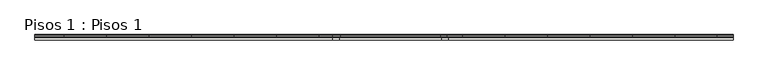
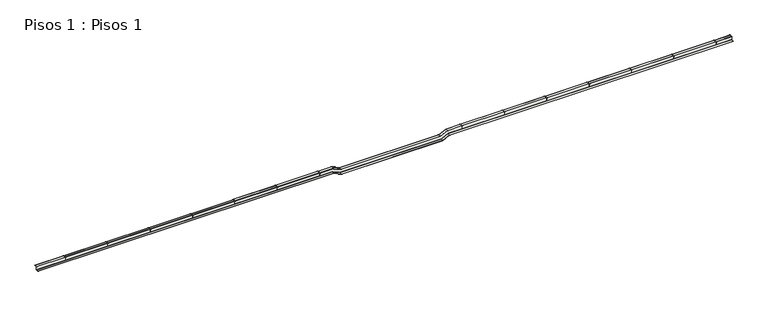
"""IFC4 building model written with IfcOpenShell, lengths in millimetres: slab geometry, Pisos 1 : Pisos 1."""

from ifc_helpers import new_model, si_unit, frame, origin, place, context, project, spatial, polyline, circle_curve, ellipse_curve, source, transform, mapped, element, save
from ifc_brep_helpers import plane_surface, cylinder_surface, revolved_surface, advanced_brep


def pisos_1_pisos_1_989e87d9(model_context):
    return source(origin(), model_context, "Body", "AdvancedBrep", [
        advanced_brep(
        [(-22493.1118355, -12233.9118273, 0.0), (-22493.1118355, -12383.9118273, 0.0), (-22493.1118355, -12383.9118273, -200.0), (-22493.1118355, -12543.9118273, -200.0), (-22493.1118355, -12543.9118273, -198.6117387), (-22493.1118355, -12536.5500886, -191.25), (-22493.1118355, -12405.9455407, -191.25), (-22493.1118355, -12393.9118273, -179.2162866), (-22493.1118355, -12393.9118273, 0.0), (-22493.1118355, -12383.9118273, 10.0), (-22493.1118355, -12243.9118273, 10.0), (-20789.9181967, -12233.9118273, 0.0), (-20789.9181967, -12383.9118273, 0.0), (-4981.1508251, -12233.9118273, 0.0), (-4981.1508251, -12383.9118273, 0.0), (-5779.9181967, -12383.9118273, 0.0), (-5779.9181967, -12233.9118273, 0.0), (-4989.9917071, -12233.9118273, 0.0), (-8279.9181967, -12233.9118273, 0.0), (-5789.9181967, -12233.9118273, 0.0), (-5789.9181967, -12383.9118273, 0.0), (-8279.9181967, -12383.9118273, 0.0), (-10779.9181967, -12233.9118273, 0.0), (-8289.9181967, -12233.9118273, 0.0), (-8289.9181967, -12383.9118273, 0.0), (-10779.9181967, -12383.9118273, 0.0), (-13281.5118355, -12233.9118273, 0.0), (-10789.9181967, -12233.9118273, 0.0), (-10789.9181967, -12383.9118273, 0.0), (-13281.5118355, -12383.9118273, 0.0), (-15779.9181967, -12233.9118273, 0.0), (-13291.5118355, -12233.9118273, 0.0), (-13291.5118355, -12383.9118273, 0.0), (-15779.9181967, -12383.9118273, 0.0), (-18279.9181967, -12233.9118273, 0.0), (-15789.9181967, -12233.9118273, 0.0), (-15789.9181967, -12383.9118273, 0.0), (-18279.9181967, -12383.9118273, 0.0), (-20779.9181967, -12233.9118273, 0.0), (-18289.9181967, -12233.9118273, 0.0), (-18289.9181967, -12383.9118273, 0.0), (-20779.9181967, -12383.9118273, 0.0), (-20789.9181967, -12383.9118273, -180.0), (-20779.9181967, -12383.9118273, -180.0), (-18289.9181967, -12383.9118273, -180.0), (-18279.9181967, -12383.9118273, -180.0), (-15789.9181967, -12383.9118273, -180.0), (-15779.9181967, -12383.9118273, -180.0), (-13291.5118355, -12383.9118273, -180.0), (-13281.5118355, -12383.9118273, -180.0), (-10789.9181967, -12383.9118273, -180.0), (-10779.9181967, -12383.9118273, -180.0), (-8289.9181967, -12383.9118273, -180.0), (-8279.9181967, -12383.9118273, -180.0), (-5789.9181967, -12383.9118273, -180.0), (-5779.9181967, -12383.9118273, -180.0), (-4542.9297644, -12383.9118273, -200.0), (1348.4881645, -12383.9118273, -200.0), (1748.4881645, -12383.9118273, 0.0), (2610.8181457, -12383.9118273, 0.0), (2610.8181457, -12383.9118273, -180.0), (2620.8181457, -12383.9118273, -180.0), (2620.8181457, -12383.9118273, 0.0), (5110.8181457, -12383.9118273, 0.0), (5110.8181457, -12383.9118273, -180.0), (5120.8181457, -12383.9118273, -180.0), (5120.8181457, -12383.9118273, 0.0), (7610.8181457, -12383.9118273, 0.0), (7610.8181457, -12383.9118273, -180.0), (7620.8181457, -12383.9118273, -180.0), (7620.8181457, -12383.9118273, 0.0), (10110.8181457, -12383.9118273, 0.0), (10110.8181457, -12383.9118273, -180.0), (10120.8181457, -12383.9118273, -180.0), (10120.8181457, -12383.9118273, 0.0), (12610.8181457, -12383.9118273, 0.0), (12610.8181457, -12383.9118273, -180.0), (12620.8181457, -12383.9118273, -180.0), (12620.8181457, -12383.9118273, 0.0), (15110.8181457, -12383.9118273, 0.0), (15110.8181457, -12383.9118273, -180.0), (15120.8181457, -12383.9118273, -180.0), (15120.8181457, -12383.9118273, 0.0), (17610.8181457, -12383.9118273, 0.0), (17610.8181457, -12383.9118273, -180.0), (17620.8181457, -12383.9118273, -180.0), (17620.8181457, -12383.9118273, 0.0), (18539.0313852, -12383.9118273, 0.0), (18539.0313852, -12383.9118273, -200.0), (1795.70176, -12383.9118273, -200.0), (1395.70176, -12383.9118273, -400.0), (-4586.4116184, -12383.9118273, -400.0), (-5024.6326791, -12383.9118273, -200.0), (-5024.6326791, -12543.9118273, -200.0), (-4586.4116184, -12543.9118273, -400.0), (1395.70176, -12543.9118273, -400.0), (1795.70176, -12543.9118273, -200.0), (18539.0313852, -12543.9118273, -200.0), (18539.0313852, -12543.9118273, -198.6117387), (1795.374036, -12543.9118273, -198.6117387), (1395.374036, -12543.9118273, -398.6117387), (-4586.1097975, -12543.9118273, -398.6117387), (-5024.3308583, -12543.9118273, -198.6117387), (-5022.730348, -12536.5500886, -191.25), (-5022.730348, -12405.9455407, -191.25), (-5020.1141072, -12393.9118273, -179.2162866), (-5779.9181967, -12393.9118273, -179.2162866), (-5779.9181967, -12393.9373747, -180.0), (-5789.9181967, -12393.9373747, -180.0), (-5789.9181967, -12393.9118273, -179.2162866), (-8279.9181967, -12393.9118273, -179.2162866), (-8279.9181967, -12393.9373747, -180.0), (-8289.9181967, -12393.9373747, -180.0), (-8289.9181967, -12393.9118273, -179.2162866), (-10779.9181967, -12393.9118273, -179.2162866), (-10779.9181967, -12393.9373747, -180.0), (-10789.9181967, -12393.9373747, -180.0), (-10789.9181967, -12393.9118273, -179.2162866), (-13281.5118355, -12393.9118273, -179.2162866), (-13281.5118355, -12393.9373747, -180.0), (-13291.5118355, -12393.9373747, -180.0), (-13291.5118355, -12393.9118273, -179.2162866), (-15779.9181967, -12393.9118273, -179.2162866), (-15779.9181967, -12393.9373747, -180.0), (-15789.9181967, -12393.9373747, -180.0), (-15789.9181967, -12393.9118273, -179.2162866), (-18279.9181967, -12393.9118273, -179.2162866), (-18279.9181967, -12393.9373747, -180.0), (-18289.9181967, -12393.9373747, -180.0), (-18289.9181967, -12393.9118273, -179.2162866), (-20779.9181967, -12393.9118273, -179.2162866), (-20779.9181967, -12393.9373747, -180.0), (-20789.9181967, -12393.9373747, -180.0), (-20789.9181967, -12393.9118273, -179.2162866), (-20789.9181967, -12393.9118273, 0.0), (-4581.8930465, -12393.9118273, -379.2162866), (1390.7953908, -12393.9118273, -379.2162866), (1790.7953908, -12393.9118273, -179.2162866), (2610.8181457, -12393.9118273, -179.2162866), (2610.8181457, -12393.9118273, 0.0), (1748.4881645, -12393.9118273, 0.0), (1348.4881645, -12393.9118273, -200.0), (-4542.9297644, -12393.9118273, -200.0), (-4981.1508251, -12393.9118273, 0.0), (-5779.9181967, -12393.9118273, 0.0), (18539.0313852, -12393.9118273, -179.2162866), (18539.0313852, -12393.9118273, 0.0), (17620.8181457, -12393.9118273, 0.0), (17620.8181457, -12393.9118273, -179.2162866), (-5789.9181967, -12393.9118273, 0.0), (-8279.9181967, -12393.9118273, 0.0), (-8289.9181967, -12393.9118273, 0.0), (-10779.9181967, -12393.9118273, 0.0), (-10789.9181967, -12393.9118273, 0.0), (-13281.5118355, -12393.9118273, 0.0), (-13291.5118355, -12393.9118273, 0.0), (-15779.9181967, -12393.9118273, 0.0), (-15789.9181967, -12393.9118273, 0.0), (-18279.9181967, -12393.9118273, 0.0), (-18289.9181967, -12393.9118273, 0.0), (-20779.9181967, -12393.9118273, 0.0), (2620.8181457, -12393.9118273, -179.2162866), (5110.8181457, -12393.9118273, -179.2162866), (5110.8181457, -12393.9118273, 0.0), (2620.8181457, -12393.9118273, 0.0), (5120.8181457, -12393.9118273, -179.2162866), (7610.8181457, -12393.9118273, -179.2162866), (7610.8181457, -12393.9118273, 0.0), (5120.8181457, -12393.9118273, 0.0), (7620.8181457, -12393.9118273, -179.2162866), (10110.8181457, -12393.9118273, -179.2162866), (10110.8181457, -12393.9118273, 0.0), (7620.8181457, -12393.9118273, 0.0), (10120.8181457, -12393.9118273, -179.2162866), (12610.8181457, -12393.9118273, -179.2162866), (12610.8181457, -12393.9118273, 0.0), (10120.8181457, -12393.9118273, 0.0), (12620.8181457, -12393.9118273, -179.2162866), (15110.8181457, -12393.9118273, -179.2162866), (15110.8181457, -12393.9118273, 0.0), (12620.8181457, -12393.9118273, 0.0), (15120.8181457, -12393.9118273, -179.2162866), (17610.8181457, -12393.9118273, -179.2162866), (17610.8181457, -12393.9118273, 0.0), (15120.8181457, -12393.9118273, 0.0), (-20789.9181967, -12383.9118273, 10.0), (-4978.9767324, -12383.9118273, 10.0), (-5779.9181967, -12383.9118273, 10.0), (-5789.9181967, -12383.9118273, 10.0), (-8279.9181967, -12383.9118273, 10.0), (-8289.9181967, -12383.9118273, 10.0), (-10779.9181967, -12383.9118273, 10.0), (-10789.9181967, -12383.9118273, 10.0), (-13281.5118355, -12383.9118273, 10.0), (-13291.5118355, -12383.9118273, 10.0), (-15779.9181967, -12383.9118273, 10.0), (-15789.9181967, -12383.9118273, 10.0), (-18279.9181967, -12383.9118273, 10.0), (-18289.9181967, -12383.9118273, 10.0), (-20779.9181967, -12383.9118273, 10.0), (-20789.9181967, -12243.9118273, 10.0), (-4978.9767324, -12243.9118273, 10.0), (-5779.9181967, -12243.9118273, 10.0), (-5789.9181967, -12243.9118273, 10.0), (-8279.9181967, -12243.9118273, 10.0), (-8289.9181967, -12243.9118273, 10.0), (-10779.9181967, -12243.9118273, 10.0), (-10789.9181967, -12243.9118273, 10.0), (-13281.5118355, -12243.9118273, 10.0), (-13291.5118355, -12243.9118273, 10.0), (-15779.9181967, -12243.9118273, 10.0), (-15789.9181967, -12243.9118273, 10.0), (-18279.9181967, -12243.9118273, 10.0), (-18289.9181967, -12243.9118273, 10.0), (-20779.9181967, -12243.9118273, 10.0), (-4979.5347895, -12233.9118273, -0.7375436), (-4542.9297644, -12233.9118273, -200.0), (-4584.5092873, -12536.5500886, -391.25), (-4584.5092873, -12405.9455407, -391.25), (-4540.7556717, -12383.9118273, -190.0), (-4540.7556717, -12243.9118273, -190.0), (1348.4881645, -12233.9118273, -200.0), (1393.6361652, -12536.5500886, -391.25), (1393.6361652, -12405.9455407, -391.25), (1346.1274847, -12383.9118273, -190.0), (1346.1274847, -12243.9118273, -190.0), (1748.4881645, -12233.9118273, 0.0), (1793.6361652, -12536.5500886, -191.25), (1793.6361652, -12405.9455407, -191.25), (1746.1274847, -12383.9118273, 10.0), (1746.1274847, -12243.9118273, 10.0), (18539.0313852, -12233.9118273, 0.0), (18539.0313852, -12243.9118273, 10.0), (18539.0313852, -12383.9118273, 10.0), (18539.0313852, -12405.9455407, -191.25), (18539.0313852, -12536.5500886, -191.25), (2610.8181457, -12233.9118273, 0.0), (17620.8181457, -12233.9118273, 0.0), (2620.8181457, -12233.9118273, 0.0), (5110.8181457, -12233.9118273, 0.0), (5120.8181457, -12233.9118273, 0.0), (7610.8181457, -12233.9118273, 0.0), (7620.8181457, -12233.9118273, 0.0), (10110.8181457, -12233.9118273, 0.0), (10120.8181457, -12233.9118273, 0.0), (12610.8181457, -12233.9118273, 0.0), (12620.8181457, -12233.9118273, 0.0), (15110.8181457, -12233.9118273, 0.0), (15120.8181457, -12233.9118273, 0.0), (17610.8181457, -12233.9118273, 0.0), (17620.8181457, -12393.9373747, -180.0), (17610.8181457, -12393.9373747, -180.0), (15120.8181457, -12393.9373747, -180.0), (15110.8181457, -12393.9373747, -180.0), (12620.8181457, -12393.9373747, -180.0), (12610.8181457, -12393.9373747, -180.0), (10120.8181457, -12393.9373747, -180.0), (10110.8181457, -12393.9373747, -180.0), (7620.8181457, -12393.9373747, -180.0), (7610.8181457, -12393.9373747, -180.0), (5120.8181457, -12393.9373747, -180.0), (5110.8181457, -12393.9373747, -180.0), (2620.8181457, -12393.9373747, -180.0), (2610.8181457, -12393.9373747, -180.0), (2610.8181457, -12383.9118273, 10.0), (17620.8181457, -12383.9118273, 10.0), (5110.8181457, -12383.9118273, 10.0), (2620.8181457, -12383.9118273, 10.0), (7610.8181457, -12383.9118273, 10.0), (5120.8181457, -12383.9118273, 10.0), (10110.8181457, -12383.9118273, 10.0), (7620.8181457, -12383.9118273, 10.0), (12610.8181457, -12383.9118273, 10.0), (10120.8181457, -12383.9118273, 10.0), (15110.8181457, -12383.9118273, 10.0), (12620.8181457, -12383.9118273, 10.0), (17610.8181457, -12383.9118273, 10.0), (15120.8181457, -12383.9118273, 10.0), (2610.8181457, -12243.9118273, 10.0), (17620.8181457, -12243.9118273, 10.0), (5110.8181457, -12243.9118273, 10.0), (2620.8181457, -12243.9118273, 10.0), (7610.8181457, -12243.9118273, 10.0), (5120.8181457, -12243.9118273, 10.0), (10110.8181457, -12243.9118273, 10.0), (7620.8181457, -12243.9118273, 10.0), (12610.8181457, -12243.9118273, 10.0), (10120.8181457, -12243.9118273, 10.0), (15110.8181457, -12243.9118273, 10.0), (12620.8181457, -12243.9118273, 10.0), (17610.8181457, -12243.9118273, 10.0), (15120.8181457, -12243.9118273, 10.0)],
        [
            (0, 1),
            (1, 2),
            (2, 3),
            (3, 4),
            (4, 5, circle_curve(frame((-22493.1118355, -12536.5500886, -198.6117387), z_axis=(-1.0, 0.0, 0.0), x_axis=(0.0, 1.0, 0.0)), 7.3617387)),
            (5, 6),
            (6, 7, circle_curve(frame((-22493.1118355, -12405.9455407, -179.2162866), z_axis=(1.0, 0.0, 0.0), x_axis=(0.0, 1.0, 0.0)), 12.0337134)),
            (7, 8),
            (8, 9, circle_curve(frame((-22493.1118355, -12383.9118273, 0.0), z_axis=(-1.0, 0.0, 0.0), x_axis=(0.0, 1.0, 0.0)), 10.0)),
            (9, 10),
            (10, 0, circle_curve(frame((-22493.1118355, -12243.9118273, 0.0), z_axis=(-1.0, 0.0, 0.0), x_axis=(0.0, 1.0, 0.0)), 10.0)),
            (0, 11),
            (11, 12),
            (12, 1),
            (13, 14),
            (14, 15),
            (15, 16),
            (16, 17),
            (17, 13),
            (18, 19),
            (19, 20),
            (20, 21),
            (21, 18),
            (22, 23),
            (23, 24),
            (24, 25),
            (25, 22),
            (26, 27),
            (27, 28),
            (28, 29),
            (29, 26),
            (30, 31),
            (31, 32),
            (32, 33),
            (33, 30),
            (34, 35),
            (35, 36),
            (36, 37),
            (37, 34),
            (38, 39),
            (39, 40),
            (40, 41),
            (41, 38),
            (12, 42),
            (42, 43),
            (43, 41),
            (40, 44),
            (44, 45),
            (45, 37),
            (36, 46),
            (46, 47),
            (47, 33),
            (32, 48),
            (48, 49),
            (49, 29),
            (28, 50),
            (50, 51),
            (51, 25),
            (24, 52),
            (52, 53),
            (53, 21),
            (20, 54),
            (54, 55),
            (55, 15),
            (14, 56),
            (56, 57),
            (57, 58),
            (58, 59),
            (59, 60),
            (60, 61),
            (61, 62),
            (62, 63),
            (63, 64),
            (64, 65),
            (65, 66),
            (66, 67),
            (67, 68),
            (68, 69),
            (69, 70),
            (70, 71),
            (71, 72),
            (72, 73),
            (73, 74),
            (74, 75),
            (75, 76),
            (76, 77),
            (77, 78),
            (78, 79),
            (79, 80),
            (80, 81),
            (81, 82),
            (82, 83),
            (83, 84),
            (84, 85),
            (85, 86),
            (86, 87),
            (87, 88),
            (88, 89),
            (89, 90),
            (90, 91),
            (91, 92),
            (92, 2),
            (92, 93),
            (93, 3),
            (93, 94),
            (94, 95),
            (95, 96),
            (96, 97),
            (97, 98),
            (98, 99),
            (99, 100),
            (100, 101),
            (101, 102),
            (102, 4),
            (102, 103, ellipse_curve(frame((-5024.3308583, -12536.5500886, -198.6117387), z_axis=(-0.9771727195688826, 0.0, 0.2124464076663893), x_axis=(-0.2124464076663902, 0.0, -0.9771727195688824)), 7.5337129, 7.3617387)),
            (103, 5),
            (103, 104),
            (104, 6),
            (104, 105, ellipse_curve(frame((-5020.1141072, -12405.9455407, -179.2162866), z_axis=(0.9771727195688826, 0.0, -0.2124464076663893), x_axis=(0.2124464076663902, 0.0, 0.9771727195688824)), 12.3148274, 12.0337134)),
            (105, 106),
            (106, 107, circle_curve(frame((-5779.9181967, -12405.9455407, -179.2162866), z_axis=(-1.0, 0.0, 0.0), x_axis=(0.0, 1.0, 0.0)), 12.0337134)),
            (107, 108),
            (108, 109, circle_curve(frame((-5789.9181967, -12405.9455407, -179.2162866), z_axis=(1.0, 0.0, 0.0), x_axis=(0.0, 1.0, 0.0)), 12.0337134)),
            (109, 110),
            (110, 111, circle_curve(frame((-8279.9181967, -12405.9455407, -179.2162866), z_axis=(-1.0, 0.0, 0.0), x_axis=(0.0, 1.0, 0.0)), 12.0337134)),
            (111, 112),
            (112, 113, circle_curve(frame((-8289.9181967, -12405.9455407, -179.2162866), z_axis=(1.0, 0.0, 0.0), x_axis=(0.0, 1.0, 0.0)), 12.0337134)),
            (113, 114),
            (114, 115, circle_curve(frame((-10779.9181967, -12405.9455407, -179.2162866), z_axis=(-1.0, 0.0, 0.0), x_axis=(0.0, 1.0, 0.0)), 12.0337134)),
            (115, 116),
            (116, 117, circle_curve(frame((-10789.9181967, -12405.9455407, -179.2162866), z_axis=(1.0, 0.0, 0.0), x_axis=(0.0, 1.0, 0.0)), 12.0337134)),
            (117, 118),
            (118, 119, circle_curve(frame((-13281.5118355, -12405.9455407, -179.2162866), z_axis=(-1.0, 0.0, 0.0), x_axis=(0.0, 1.0, 0.0)), 12.0337134)),
            (119, 120),
            (120, 121, circle_curve(frame((-13291.5118355, -12405.9455407, -179.2162866), z_axis=(1.0, 0.0, 0.0), x_axis=(0.0, 1.0, 0.0)), 12.0337134)),
            (121, 122),
            (122, 123, circle_curve(frame((-15779.9181967, -12405.9455407, -179.2162866), z_axis=(-1.0, 0.0, 0.0), x_axis=(0.0, 1.0, 0.0)), 12.0337134)),
            (123, 124),
            (124, 125, circle_curve(frame((-15789.9181967, -12405.9455407, -179.2162866), z_axis=(1.0, 0.0, 0.0), x_axis=(0.0, 1.0, 0.0)), 12.0337134)),
            (125, 126),
            (126, 127, circle_curve(frame((-18279.9181967, -12405.9455407, -179.2162866), z_axis=(-1.0, 0.0, 0.0), x_axis=(0.0, 1.0, 0.0)), 12.0337134)),
            (127, 128),
            (128, 129, circle_curve(frame((-18289.9181967, -12405.9455407, -179.2162866), z_axis=(1.0, 0.0, 0.0), x_axis=(0.0, 1.0, 0.0)), 12.0337134)),
            (129, 130),
            (130, 131, circle_curve(frame((-20779.9181967, -12405.9455407, -179.2162866), z_axis=(-1.0, 0.0, 0.0), x_axis=(0.0, 1.0, 0.0)), 12.0337134)),
            (131, 132),
            (132, 133, circle_curve(frame((-20789.9181967, -12405.9455407, -179.2162866), z_axis=(1.0, 0.0, 0.0), x_axis=(0.0, 1.0, 0.0)), 12.0337134)),
            (133, 7),
            (133, 134),
            (134, 8),
            (105, 135),
            (135, 136),
            (136, 137),
            (137, 138),
            (138, 139),
            (139, 140),
            (140, 141),
            (141, 142),
            (142, 143),
            (143, 144),
            (144, 106),
            (145, 146),
            (146, 147),
            (147, 148),
            (148, 145),
            (109, 149),
            (149, 150),
            (150, 110),
            (113, 151),
            (151, 152),
            (152, 114),
            (117, 153),
            (153, 154),
            (154, 118),
            (121, 155),
            (155, 156),
            (156, 122),
            (125, 157),
            (157, 158),
            (158, 126),
            (129, 159),
            (159, 160),
            (160, 130),
            (161, 162),
            (162, 163),
            (163, 164),
            (164, 161),
            (165, 166),
            (166, 167),
            (167, 168),
            (168, 165),
            (169, 170),
            (170, 171),
            (171, 172),
            (172, 169),
            (173, 174),
            (174, 175),
            (175, 176),
            (176, 173),
            (177, 178),
            (178, 179),
            (179, 180),
            (180, 177),
            (181, 182),
            (182, 183),
            (183, 184),
            (184, 181),
            (134, 185, circle_curve(frame((-20789.9181967, -12383.9118273, 0.0), z_axis=(-1.0, 0.0, 0.0), x_axis=(0.0, 1.0, 0.0)), 10.0)),
            (185, 9),
            (143, 186, ellipse_curve(frame((-4981.1508251, -12383.9118273, 0.0), z_axis=(-0.9771727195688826, 0.0, 0.2124464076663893), x_axis=(-0.2124464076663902, 0.0, -0.9771727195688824)), 10.2336054, 10.0)),
            (186, 187),
            (187, 144, circle_curve(frame((-5779.9181967, -12383.9118273, 0.0), z_axis=(1.0, 0.0, 0.0), x_axis=(0.0, 1.0, 0.0)), 10.0)),
            (149, 188, circle_curve(frame((-5789.9181967, -12383.9118273, 0.0), z_axis=(-1.0, 0.0, 0.0), x_axis=(0.0, 1.0, 0.0)), 10.0)),
            (188, 189),
            (189, 150, circle_curve(frame((-8279.9181967, -12383.9118273, 0.0), z_axis=(1.0, 0.0, 0.0), x_axis=(0.0, 1.0, 0.0)), 10.0)),
            (151, 190, circle_curve(frame((-8289.9181967, -12383.9118273, 0.0), z_axis=(-1.0, 0.0, 0.0), x_axis=(0.0, 1.0, 0.0)), 10.0)),
            (190, 191),
            (191, 152, circle_curve(frame((-10779.9181967, -12383.9118273, 0.0), z_axis=(1.0, 0.0, 0.0), x_axis=(0.0, 1.0, 0.0)), 10.0)),
            (153, 192, circle_curve(frame((-10789.9181967, -12383.9118273, 0.0), z_axis=(-1.0, 0.0, 0.0), x_axis=(0.0, 1.0, 0.0)), 10.0)),
            (192, 193),
            (193, 154, circle_curve(frame((-13281.5118355, -12383.9118273, 0.0), z_axis=(1.0, 0.0, 0.0), x_axis=(0.0, 1.0, 0.0)), 10.0)),
            (155, 194, circle_curve(frame((-13291.5118355, -12383.9118273, 0.0), z_axis=(-1.0, 0.0, 0.0), x_axis=(0.0, 1.0, 0.0)), 10.0)),
            (194, 195),
            (195, 156, circle_curve(frame((-15779.9181967, -12383.9118273, 0.0), z_axis=(1.0, 0.0, 0.0), x_axis=(0.0, 1.0, 0.0)), 10.0)),
            (157, 196, circle_curve(frame((-15789.9181967, -12383.9118273, 0.0), z_axis=(-1.0, 0.0, 0.0), x_axis=(0.0, 1.0, 0.0)), 10.0)),
            (196, 197),
            (197, 158, circle_curve(frame((-18279.9181967, -12383.9118273, 0.0), z_axis=(1.0, 0.0, 0.0), x_axis=(0.0, 1.0, 0.0)), 10.0)),
            (159, 198, circle_curve(frame((-18289.9181967, -12383.9118273, 0.0), z_axis=(-1.0, 0.0, 0.0), x_axis=(0.0, 1.0, 0.0)), 10.0)),
            (198, 199),
            (199, 160, circle_curve(frame((-20779.9181967, -12383.9118273, 0.0), z_axis=(1.0, 0.0, 0.0), x_axis=(0.0, 1.0, 0.0)), 10.0)),
            (185, 200),
            (200, 10),
            (186, 201),
            (201, 202),
            (202, 187),
            (188, 203),
            (203, 204),
            (204, 189),
            (190, 205),
            (205, 206),
            (206, 191),
            (192, 207),
            (207, 208),
            (208, 193),
            (194, 209),
            (209, 210),
            (210, 195),
            (196, 211),
            (211, 212),
            (212, 197),
            (198, 213),
            (213, 214),
            (214, 199),
            (200, 11, circle_curve(frame((-20789.9181967, -12243.9118273, 0.0), z_axis=(-1.0, 0.0, 0.0), x_axis=(0.0, 1.0, 0.0)), 10.0)),
            (201, 13, ellipse_curve(frame((-4981.1508251, -12243.9118273, 0.0), z_axis=(-0.9771727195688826, 0.0, 0.2124464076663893), x_axis=(-0.2124464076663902, 0.0, -0.9771727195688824)), 10.2336054, 10.0)),
            (16, 202, circle_curve(frame((-5779.9181967, -12243.9118273, 0.0), z_axis=(1.0, 0.0, 0.0), x_axis=(0.0, 1.0, 0.0)), 10.0)),
            (18, 204, circle_curve(frame((-8279.9181967, -12243.9118273, 0.0), z_axis=(1.0, 0.0, 0.0), x_axis=(0.0, 1.0, 0.0)), 10.0)),
            (203, 19, circle_curve(frame((-5789.9181967, -12243.9118273, 0.0), z_axis=(-1.0, 0.0, 0.0), x_axis=(0.0, 1.0, 0.0)), 10.0)),
            (22, 206, circle_curve(frame((-10779.9181967, -12243.9118273, 0.0), z_axis=(1.0, 0.0, 0.0), x_axis=(0.0, 1.0, 0.0)), 10.0)),
            (205, 23, circle_curve(frame((-8289.9181967, -12243.9118273, 0.0), z_axis=(-1.0, 0.0, 0.0), x_axis=(0.0, 1.0, 0.0)), 10.0)),
            (26, 208, circle_curve(frame((-13281.5118355, -12243.9118273, 0.0), z_axis=(1.0, 0.0, 0.0), x_axis=(0.0, 1.0, 0.0)), 10.0)),
            (207, 27, circle_curve(frame((-10789.9181967, -12243.9118273, 0.0), z_axis=(-1.0, 0.0, 0.0), x_axis=(0.0, 1.0, 0.0)), 10.0)),
            (30, 210, circle_curve(frame((-15779.9181967, -12243.9118273, 0.0), z_axis=(1.0, 0.0, 0.0), x_axis=(0.0, 1.0, 0.0)), 10.0)),
            (209, 31, circle_curve(frame((-13291.5118355, -12243.9118273, 0.0), z_axis=(-1.0, 0.0, 0.0), x_axis=(0.0, 1.0, 0.0)), 10.0)),
            (34, 212, circle_curve(frame((-18279.9181967, -12243.9118273, 0.0), z_axis=(1.0, 0.0, 0.0), x_axis=(0.0, 1.0, 0.0)), 10.0)),
            (211, 35, circle_curve(frame((-15789.9181967, -12243.9118273, 0.0), z_axis=(-1.0, 0.0, 0.0), x_axis=(0.0, 1.0, 0.0)), 10.0)),
            (38, 214, circle_curve(frame((-20779.9181967, -12243.9118273, 0.0), z_axis=(1.0, 0.0, 0.0), x_axis=(0.0, 1.0, 0.0)), 10.0)),
            (213, 39, circle_curve(frame((-18289.9181967, -12243.9118273, 0.0), z_axis=(-1.0, 0.0, 0.0), x_axis=(0.0, 1.0, 0.0)), 10.0)),
            (13, 215),
            (215, 216),
            (216, 56),
            (91, 94),
            (101, 217, ellipse_curve(frame((-4586.1097975, -12536.5500886, -398.6117387), z_axis=(-0.9771727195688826, 0.0, 0.21244640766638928), x_axis=(0.21244640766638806, 0.0, 0.977172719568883)), 7.5337129, 7.3617387)),
            (217, 103),
            (217, 218),
            (218, 104),
            (218, 135, ellipse_curve(frame((-4581.8930465, -12405.9455407, -379.2162866), z_axis=(0.9771727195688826, 0.0, -0.21244640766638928), x_axis=(-0.21244640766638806, 0.0, -0.977172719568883)), 12.3148274, 12.0337134)),
            (142, 219, ellipse_curve(frame((-4542.9297644, -12383.9118273, -200.0), z_axis=(-0.9771727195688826, 0.0, 0.21244640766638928), x_axis=(0.21244640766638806, 0.0, 0.977172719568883)), 10.2336054, 10.0)),
            (219, 186),
            (219, 220),
            (220, 201),
            (220, 216, ellipse_curve(frame((-4542.9297644, -12243.9118273, -200.0), z_axis=(-0.9771727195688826, 0.0, 0.21244640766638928), x_axis=(0.21244640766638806, 0.0, 0.977172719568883)), 10.2336054, 10.0)),
            (216, 221),
            (221, 57),
            (90, 95),
            (100, 222, ellipse_curve(frame((1395.374036, -12536.5500886, -398.6117387), z_axis=(-0.9732489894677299, 0.0, -0.22975292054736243), x_axis=(-0.22975292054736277, 0.0, 0.9732489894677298)), 7.5640856, 7.3617387)),
            (222, 217),
            (222, 223),
            (223, 218),
            (223, 136, ellipse_curve(frame((1390.7953908, -12405.9455407, -379.2162866), z_axis=(0.9732489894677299, 0.0, 0.22975292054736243), x_axis=(0.22975292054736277, 0.0, -0.9732489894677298)), 12.3644756, 12.0337134)),
            (141, 224, ellipse_curve(frame((1348.4881645, -12383.9118273, -200.0), z_axis=(-0.9732489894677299, 0.0, -0.22975292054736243), x_axis=(-0.22975292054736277, 0.0, 0.9732489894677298)), 10.274863, 10.0)),
            (224, 219),
            (224, 225),
            (225, 220),
            (225, 221, ellipse_curve(frame((1348.4881645, -12243.9118273, -200.0), z_axis=(-0.9732489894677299, 0.0, -0.22975292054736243), x_axis=(-0.22975292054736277, 0.0, 0.9732489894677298)), 10.274863, 10.0)),
            (221, 226),
            (226, 58),
            (89, 96),
            (99, 227, ellipse_curve(frame((1795.374036, -12536.5500886, -198.6117387), z_axis=(-0.9732489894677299, 0.0, -0.22975292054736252), x_axis=(0.22975292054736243, 0.0, -0.97324898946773)), 7.5640856, 7.3617387)),
            (227, 222),
            (227, 228),
            (228, 223),
            (228, 137, ellipse_curve(frame((1790.7953908, -12405.9455407, -179.2162866), z_axis=(0.9732489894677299, 0.0, 0.22975292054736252), x_axis=(-0.22975292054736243, 0.0, 0.97324898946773)), 12.3644756, 12.0337134)),
            (140, 229, ellipse_curve(frame((1748.4881645, -12383.9118273, 0.0), z_axis=(-0.9732489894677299, 0.0, -0.22975292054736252), x_axis=(0.22975292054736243, 0.0, -0.97324898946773)), 10.274863, 10.0)),
            (229, 224),
            (229, 230),
            (230, 225),
            (230, 226, ellipse_curve(frame((1748.4881645, -12243.9118273, 0.0), z_axis=(-0.9732489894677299, 0.0, -0.22975292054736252), x_axis=(0.22975292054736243, 0.0, -0.97324898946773)), 10.274863, 10.0)),
            (87, 231),
            (231, 232, circle_curve(frame((18539.0313852, -12243.9118273, 0.0), z_axis=(1.0, 0.0, 0.0), x_axis=(0.0, 1.0, 0.0)), 10.0)),
            (232, 233),
            (233, 146, circle_curve(frame((18539.0313852, -12383.9118273, 0.0), z_axis=(1.0, 0.0, 0.0), x_axis=(0.0, 1.0, 0.0)), 10.0)),
            (145, 234, circle_curve(frame((18539.0313852, -12405.9455407, -179.2162866), z_axis=(-1.0, 0.0, 0.0), x_axis=(0.0, 1.0, 0.0)), 12.0337134)),
            (234, 235),
            (235, 98, circle_curve(frame((18539.0313852, -12536.5500886, -198.6117387), z_axis=(1.0, 0.0, 0.0), x_axis=(0.0, 1.0, 0.0)), 7.3617387)),
            (97, 88),
            (226, 236),
            (236, 59),
            (86, 237),
            (237, 231),
            (62, 238),
            (238, 239),
            (239, 63),
            (66, 240),
            (240, 241),
            (241, 67),
            (70, 242),
            (242, 243),
            (243, 71),
            (74, 244),
            (244, 245),
            (245, 75),
            (78, 246),
            (246, 247),
            (247, 79),
            (82, 248),
            (248, 249),
            (249, 83),
            (235, 227),
            (234, 228),
            (148, 250, circle_curve(frame((17620.8181457, -12405.9455407, -179.2162866), z_axis=(-1.0, 0.0, 0.0), x_axis=(0.0, 1.0, 0.0)), 12.0337134)),
            (250, 251),
            (251, 182, circle_curve(frame((17610.8181457, -12405.9455407, -179.2162866), z_axis=(1.0, 0.0, 0.0), x_axis=(0.0, 1.0, 0.0)), 12.0337134)),
            (181, 252, circle_curve(frame((15120.8181457, -12405.9455407, -179.2162866), z_axis=(-1.0, 0.0, 0.0), x_axis=(0.0, 1.0, 0.0)), 12.0337134)),
            (252, 253),
            (253, 178, circle_curve(frame((15110.8181457, -12405.9455407, -179.2162866), z_axis=(1.0, 0.0, 0.0), x_axis=(0.0, 1.0, 0.0)), 12.0337134)),
            (177, 254, circle_curve(frame((12620.8181457, -12405.9455407, -179.2162866), z_axis=(-1.0, 0.0, 0.0), x_axis=(0.0, 1.0, 0.0)), 12.0337134)),
            (254, 255),
            (255, 174, circle_curve(frame((12610.8181457, -12405.9455407, -179.2162866), z_axis=(1.0, 0.0, 0.0), x_axis=(0.0, 1.0, 0.0)), 12.0337134)),
            (173, 256, circle_curve(frame((10120.8181457, -12405.9455407, -179.2162866), z_axis=(-1.0, 0.0, 0.0), x_axis=(0.0, 1.0, 0.0)), 12.0337134)),
            (256, 257),
            (257, 170, circle_curve(frame((10110.8181457, -12405.9455407, -179.2162866), z_axis=(1.0, 0.0, 0.0), x_axis=(0.0, 1.0, 0.0)), 12.0337134)),
            (169, 258, circle_curve(frame((7620.8181457, -12405.9455407, -179.2162866), z_axis=(-1.0, 0.0, 0.0), x_axis=(0.0, 1.0, 0.0)), 12.0337134)),
            (258, 259),
            (259, 166, circle_curve(frame((7610.8181457, -12405.9455407, -179.2162866), z_axis=(1.0, 0.0, 0.0), x_axis=(0.0, 1.0, 0.0)), 12.0337134)),
            (165, 260, circle_curve(frame((5120.8181457, -12405.9455407, -179.2162866), z_axis=(-1.0, 0.0, 0.0), x_axis=(0.0, 1.0, 0.0)), 12.0337134)),
            (260, 261),
            (261, 162, circle_curve(frame((5110.8181457, -12405.9455407, -179.2162866), z_axis=(1.0, 0.0, 0.0), x_axis=(0.0, 1.0, 0.0)), 12.0337134)),
            (161, 262, circle_curve(frame((2620.8181457, -12405.9455407, -179.2162866), z_axis=(-1.0, 0.0, 0.0), x_axis=(0.0, 1.0, 0.0)), 12.0337134)),
            (262, 263),
            (263, 138, circle_curve(frame((2610.8181457, -12405.9455407, -179.2162866), z_axis=(1.0, 0.0, 0.0), x_axis=(0.0, 1.0, 0.0)), 12.0337134)),
            (139, 264, circle_curve(frame((2610.8181457, -12383.9118273, 0.0), z_axis=(-1.0, 0.0, 0.0), x_axis=(0.0, 1.0, 0.0)), 10.0)),
            (264, 229),
            (233, 265),
            (265, 147, circle_curve(frame((17620.8181457, -12383.9118273, 0.0), z_axis=(1.0, 0.0, 0.0), x_axis=(0.0, 1.0, 0.0)), 10.0)),
            (163, 266, circle_curve(frame((5110.8181457, -12383.9118273, 0.0), z_axis=(-1.0, 0.0, 0.0), x_axis=(0.0, 1.0, 0.0)), 10.0)),
            (266, 267),
            (267, 164, circle_curve(frame((2620.8181457, -12383.9118273, 0.0), z_axis=(1.0, 0.0, 0.0), x_axis=(0.0, 1.0, 0.0)), 10.0)),
            (167, 268, circle_curve(frame((7610.8181457, -12383.9118273, 0.0), z_axis=(-1.0, 0.0, 0.0), x_axis=(0.0, 1.0, 0.0)), 10.0)),
            (268, 269),
            (269, 168, circle_curve(frame((5120.8181457, -12383.9118273, 0.0), z_axis=(1.0, 0.0, 0.0), x_axis=(0.0, 1.0, 0.0)), 10.0)),
            (171, 270, circle_curve(frame((10110.8181457, -12383.9118273, 0.0), z_axis=(-1.0, 0.0, 0.0), x_axis=(0.0, 1.0, 0.0)), 10.0)),
            (270, 271),
            (271, 172, circle_curve(frame((7620.8181457, -12383.9118273, 0.0), z_axis=(1.0, 0.0, 0.0), x_axis=(0.0, 1.0, 0.0)), 10.0)),
            (175, 272, circle_curve(frame((12610.8181457, -12383.9118273, 0.0), z_axis=(-1.0, 0.0, 0.0), x_axis=(0.0, 1.0, 0.0)), 10.0)),
            (272, 273),
            (273, 176, circle_curve(frame((10120.8181457, -12383.9118273, 0.0), z_axis=(1.0, 0.0, 0.0), x_axis=(0.0, 1.0, 0.0)), 10.0)),
            (179, 274, circle_curve(frame((15110.8181457, -12383.9118273, 0.0), z_axis=(-1.0, 0.0, 0.0), x_axis=(0.0, 1.0, 0.0)), 10.0)),
            (274, 275),
            (275, 180, circle_curve(frame((12620.8181457, -12383.9118273, 0.0), z_axis=(1.0, 0.0, 0.0), x_axis=(0.0, 1.0, 0.0)), 10.0)),
            (183, 276, circle_curve(frame((17610.8181457, -12383.9118273, 0.0), z_axis=(-1.0, 0.0, 0.0), x_axis=(0.0, 1.0, 0.0)), 10.0)),
            (276, 277),
            (277, 184, circle_curve(frame((15120.8181457, -12383.9118273, 0.0), z_axis=(1.0, 0.0, 0.0), x_axis=(0.0, 1.0, 0.0)), 10.0)),
            (264, 278),
            (278, 230),
            (232, 279),
            (279, 265),
            (266, 280),
            (280, 281),
            (281, 267),
            (268, 282),
            (282, 283),
            (283, 269),
            (270, 284),
            (284, 285),
            (285, 271),
            (272, 286),
            (286, 287),
            (287, 273),
            (274, 288),
            (288, 289),
            (289, 275),
            (276, 290),
            (290, 291),
            (291, 277),
            (278, 236, circle_curve(frame((2610.8181457, -12243.9118273, 0.0), z_axis=(-1.0, 0.0, 0.0), x_axis=(0.0, 1.0, 0.0)), 10.0)),
            (237, 279, circle_curve(frame((17620.8181457, -12243.9118273, 0.0), z_axis=(1.0, 0.0, 0.0), x_axis=(0.0, 1.0, 0.0)), 10.0)),
            (238, 281, circle_curve(frame((2620.8181457, -12243.9118273, 0.0), z_axis=(1.0, 0.0, 0.0), x_axis=(0.0, 1.0, 0.0)), 10.0)),
            (280, 239, circle_curve(frame((5110.8181457, -12243.9118273, 0.0), z_axis=(-1.0, 0.0, 0.0), x_axis=(0.0, 1.0, 0.0)), 10.0)),
            (240, 283, circle_curve(frame((5120.8181457, -12243.9118273, 0.0), z_axis=(1.0, 0.0, 0.0), x_axis=(0.0, 1.0, 0.0)), 10.0)),
            (282, 241, circle_curve(frame((7610.8181457, -12243.9118273, 0.0), z_axis=(-1.0, 0.0, 0.0), x_axis=(0.0, 1.0, 0.0)), 10.0)),
            (242, 285, circle_curve(frame((7620.8181457, -12243.9118273, 0.0), z_axis=(1.0, 0.0, 0.0), x_axis=(0.0, 1.0, 0.0)), 10.0)),
            (284, 243, circle_curve(frame((10110.8181457, -12243.9118273, 0.0), z_axis=(-1.0, 0.0, 0.0), x_axis=(0.0, 1.0, 0.0)), 10.0)),
            (244, 287, circle_curve(frame((10120.8181457, -12243.9118273, 0.0), z_axis=(1.0, 0.0, 0.0), x_axis=(0.0, 1.0, 0.0)), 10.0)),
            (286, 245, circle_curve(frame((12610.8181457, -12243.9118273, 0.0), z_axis=(-1.0, 0.0, 0.0), x_axis=(0.0, 1.0, 0.0)), 10.0)),
            (246, 289, circle_curve(frame((12620.8181457, -12243.9118273, 0.0), z_axis=(1.0, 0.0, 0.0), x_axis=(0.0, 1.0, 0.0)), 10.0)),
            (288, 247, circle_curve(frame((15110.8181457, -12243.9118273, 0.0), z_axis=(-1.0, 0.0, 0.0), x_axis=(0.0, 1.0, 0.0)), 10.0)),
            (248, 291, circle_curve(frame((15120.8181457, -12243.9118273, 0.0), z_axis=(1.0, 0.0, 0.0), x_axis=(0.0, 1.0, 0.0)), 10.0)),
            (290, 249, circle_curve(frame((17610.8181457, -12243.9118273, 0.0), z_axis=(-1.0, 0.0, 0.0), x_axis=(0.0, 1.0, 0.0)), 10.0)),
            (262, 61),
            (60, 263),
            (260, 65),
            (64, 261),
            (258, 69),
            (68, 259),
            (256, 73),
            (72, 257),
            (254, 77),
            (76, 255),
            (252, 81),
            (80, 253),
            (250, 85),
            (84, 251),
            (107, 55),
            (54, 108),
            (111, 53),
            (52, 112),
            (115, 51),
            (50, 116),
            (119, 49),
            (48, 120),
            (123, 47),
            (46, 124),
            (127, 45),
            (44, 128),
            (131, 43),
            (42, 132),
        ],
        [
            plane_surface(frame((-22493.1118355, -12383.9118273, 0.0), z_axis=(-1.0, 0.0, 0.0), x_axis=(0.0, 0.0, 1.0))),
            plane_surface(frame((-22493.1118355, -12233.9118273, 0.0), z_axis=(0.0, 0.0, -1.0), x_axis=(1.0, 0.0, 0.0))),
            plane_surface(frame((-22493.1118355, -12383.9118273, 0.0), z_axis=(0.0, 1.0, 0.0), x_axis=(1.0, 0.0, 0.0))),
            plane_surface(frame((-22493.1118355, -12383.9118273, -200.0), z_axis=(0.0, 0.0, -1.0), x_axis=(1.0, 0.0, 0.0))),
            plane_surface(frame((-22493.1118355, -12543.9118273, -200.0), z_axis=(0.0, -1.0, 0.0), x_axis=(1.0, 0.0, 0.0))),
            cylinder_surface(frame((-22493.1118355, -12536.5500886, -198.6117387), z_axis=(-1.0, 0.0, 0.0), x_axis=(0.0, 1.0, 0.0)), 7.3617387),
            plane_surface(frame((-22493.1118355, -12536.5500886, -191.25), z_axis=(0.0, 0.0, 1.0), x_axis=(1.0, 0.0, 0.0))),
            revolved_surface(polyline([(-5017.497866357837, -12393.9118273, -179.2162866), (-22493.1118355, -12393.9118273, -179.2162866)]), (-22493.1118355, -12405.9455407, -179.2162866), (1.0, 0.0, 0.0)),
            plane_surface(frame((-22493.1118355, -12393.9118273, -179.2162866), z_axis=(0.0, -1.0, 0.0), x_axis=(1.0, 0.0, 0.0))),
            cylinder_surface(frame((-22493.1118355, -12383.9118273, 0.0), z_axis=(-1.0, 0.0, 0.0), x_axis=(0.0, 1.0, 0.0)), 10.0),
            plane_surface(frame((-22493.1118355, -12383.9118273, 10.0), z_axis=(0.0, 0.0, 1.0), x_axis=(1.0, 0.0, 0.0))),
            cylinder_surface(frame((-22493.1118355, -12243.9118273, 0.0), z_axis=(-1.0, 0.0, 0.0), x_axis=(0.0, 1.0, 0.0)), 10.0),
            plane_surface(frame((-4981.1508251, -12233.9118273, 0.0), z_axis=(-0.41519366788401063, 0.0, -0.9097330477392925), x_axis=(0.9097330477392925, 0.0, -0.41519366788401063))),
            plane_surface(frame((-5024.6326791, -12383.9118273, -200.0), z_axis=(-0.4151936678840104, 0.0, -0.9097330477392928), x_axis=(0.9097330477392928, 0.0, -0.4151936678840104))),
            cylinder_surface(frame((-5063.6131614, -12536.5500886, -180.6836624), z_axis=(-0.9097330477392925, 0.0, 0.4151936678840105), x_axis=(0.0, 1.0, 0.0)), 7.3617387),
            plane_surface(frame((-5022.730348, -12536.5500886, -191.25), z_axis=(0.41519366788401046, 0.0, 0.9097330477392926), x_axis=(0.9097330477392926, 0.0, -0.41519366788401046))),
            revolved_surface(polyline([(-4579.512965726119, -12393.9118273, -380.30253330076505), (-5022.4941879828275, -12393.9118273, -178.13004002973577)]), (-5055.5602925, -12405.9455407, -163.0389787), (0.9097330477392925, 0.0, -0.4151936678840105)),
            cylinder_surface(frame((-4981.1508251, -12383.9118273, 0.0), z_axis=(-0.9097330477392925, 0.0, 0.4151936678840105), x_axis=(0.0, 1.0, 0.0)), 10.0),
            plane_surface(frame((-4978.9767324, -12383.9118273, 10.0), z_axis=(0.4151936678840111, 0.0, 0.9097330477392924), x_axis=(0.9097330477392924, 0.0, -0.4151936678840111))),
            cylinder_surface(frame((-4981.1508251, -12243.9118273, 0.0), z_axis=(-0.9097330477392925, 0.0, 0.4151936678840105), x_axis=(0.0, 1.0, 0.0)), 10.0),
            plane_surface(frame((-4542.9297644, -12233.9118273, -200.0), z_axis=(0.0, 0.0, -1.0), x_axis=(1.0, 0.0, 0.0))),
            plane_surface(frame((-4586.4116184, -12383.9118273, -400.0), z_axis=(0.0, 0.0, -1.0), x_axis=(1.0, 0.0, 0.0))),
            cylinder_surface(frame((-4542.9297644, -12536.5500886, -398.6117387), z_axis=(-1.0, 0.0, 0.0), x_axis=(0.0, 1.0, 0.0)), 7.3617387),
            plane_surface(frame((-4584.5092873, -12536.5500886, -391.25), z_axis=(0.0, 0.0, 1.0), x_axis=(1.0, 0.0, 0.0))),
            revolved_surface(polyline([(1393.6361651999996, -12393.9118273, -379.2162866), (-4584.509287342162, -12393.9118273, -379.2162866)]), (-4542.9297644, -12405.9455407, -379.2162866), (1.0, 0.0, 0.0)),
            cylinder_surface(frame((-4542.9297644, -12383.9118273, -200.0), z_axis=(-1.0, 0.0, 0.0), x_axis=(0.0, 1.0, 0.0)), 10.0),
            plane_surface(frame((-4540.7556717, -12383.9118273, -190.0), z_axis=(0.0, 0.0, 1.0), x_axis=(1.0, 0.0, 0.0))),
            cylinder_surface(frame((-4542.9297644, -12243.9118273, -200.0), z_axis=(-1.0, 0.0, 0.0), x_axis=(0.0, 1.0, 0.0)), 10.0),
            plane_surface(frame((1348.4881645, -12233.9118273, -200.0), z_axis=(0.4472135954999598, 0.0, -0.894427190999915), x_axis=(0.894427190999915, 0.0, 0.4472135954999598))),
            plane_surface(frame((1395.70176, -12383.9118273, -400.0), z_axis=(0.4472135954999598, 0.0, -0.8944271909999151), x_axis=(0.8944271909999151, 0.0, 0.4472135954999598))),
            cylinder_surface(frame((1437.3100343, -12536.5500886, -377.6437396), z_axis=(-0.8944271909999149, 0.0, -0.4472135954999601), x_axis=(0.0, 1.0, 0.0)), 7.3617387),
            plane_surface(frame((1393.6361652, -12536.5500886, -391.25), z_axis=(-0.44721359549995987, 0.0, 0.894427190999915), x_axis=(0.894427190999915, 0.0, 0.44721359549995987))),
            revolved_surface(polyline([(1793.3362566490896, -12393.9118273, -177.94585367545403), (1388.2545249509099, -12393.9118273, -380.48671952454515)]), (1428.6361244, -12405.9455407, -360.2959198), (0.8944271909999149, 0.0, 0.4472135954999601)),
            cylinder_surface(frame((1348.4881645, -12383.9118273, -200.0), z_axis=(-0.8944271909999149, 0.0, -0.4472135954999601), x_axis=(0.0, 1.0, 0.0)), 10.0),
            plane_surface(frame((1346.1274847, -12383.9118273, -190.0), z_axis=(-0.44721359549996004, 0.0, 0.894427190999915), x_axis=(0.894427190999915, 0.0, 0.44721359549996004))),
            cylinder_surface(frame((1348.4881645, -12243.9118273, -200.0), z_axis=(-0.8944271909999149, 0.0, -0.4472135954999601), x_axis=(0.0, 1.0, 0.0)), 10.0),
            plane_surface(frame((18539.0313852, -12383.9118273, 0.0), z_axis=(1.0, 0.0, 0.0), x_axis=(0.0, 0.0, 1.0))),
            plane_surface(frame((1748.4881645, -12233.9118273, 0.0), z_axis=(0.0, 0.0, -1.0), x_axis=(1.0, 0.0, 0.0))),
            plane_surface(frame((1795.70176, -12383.9118273, -200.0), z_axis=(0.0, 0.0, -1.0), x_axis=(1.0, 0.0, 0.0))),
            cylinder_surface(frame((1748.4881645, -12536.5500886, -198.6117387), z_axis=(-1.0, 0.0, 0.0), x_axis=(0.0, 1.0, 0.0)), 7.3617387),
            plane_surface(frame((1793.6361652, -12536.5500886, -191.25), z_axis=(0.0, 0.0, 1.0), x_axis=(1.0, 0.0, 0.0))),
            revolved_surface(polyline([(18539.0313852, -12393.9118273, -179.2162866), (1787.9546164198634, -12393.9118273, -179.2162866)]), (1748.4881645, -12405.9455407, -179.2162866), (1.0, 0.0, 0.0)),
            cylinder_surface(frame((1748.4881645, -12383.9118273, 0.0), z_axis=(-1.0, 0.0, 0.0), x_axis=(0.0, 1.0, 0.0)), 10.0),
            plane_surface(frame((1746.1274847, -12383.9118273, 10.0), z_axis=(0.0, 0.0, 1.0), x_axis=(1.0, 0.0, 0.0))),
            cylinder_surface(frame((1748.4881645, -12243.9118273, 0.0), z_axis=(-1.0, 0.0, 0.0), x_axis=(0.0, 1.0, 0.0)), 10.0),
            plane_surface(frame((-4979.5347895, -12233.9118273, -180.0), z_axis=(0.0, 0.0, 1.0000000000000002), x_axis=(-0.29237170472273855, -0.956304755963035, 0.0))),
            plane_surface(frame((2610.8181457, -12455.3862184, -180.0), z_axis=(1.0, 0.0, 0.0), x_axis=(0.0, 0.0, 1.0))),
            plane_surface(frame((2620.8181457, -9933.9118273, -180.0), z_axis=(-1.0, 0.0, 0.0), x_axis=(0.0, 0.0, 1.0))),
            plane_surface(frame((5110.8181457, -12455.3862184, -180.0), z_axis=(1.0, 0.0, 0.0), x_axis=(0.0, 0.0, 1.0))),
            plane_surface(frame((5120.8181457, -9933.9118273, -180.0), z_axis=(-1.0, 0.0, 0.0), x_axis=(0.0, 0.0, 1.0))),
            plane_surface(frame((7610.8181457, -12455.3862184, -180.0), z_axis=(1.0, 0.0, 0.0), x_axis=(0.0, 0.0, 1.0))),
            plane_surface(frame((7620.8181457, -9933.9118273, -180.0), z_axis=(-1.0, 0.0, 0.0), x_axis=(0.0, 0.0, 1.0))),
            plane_surface(frame((10110.8181457, -12455.3862184, -180.0), z_axis=(1.0, 0.0, 0.0), x_axis=(0.0, 0.0, 1.0))),
            plane_surface(frame((10120.8181457, -9933.9118273, -180.0), z_axis=(-1.0, 0.0, 0.0), x_axis=(0.0, 0.0, 1.0))),
            plane_surface(frame((12610.8181457, -12455.3862184, -180.0), z_axis=(1.0, 0.0, 0.0), x_axis=(0.0, 0.0, 1.0))),
            plane_surface(frame((12620.8181457, -9933.9118273, -180.0), z_axis=(-1.0, 0.0, 0.0), x_axis=(0.0, 0.0, 1.0))),
            plane_surface(frame((15110.8181457, -12455.3862184, -180.0), z_axis=(1.0, 0.0, 0.0), x_axis=(0.0, 0.0, 1.0))),
            plane_surface(frame((15120.8181457, -9933.9118273, -180.0), z_axis=(-1.0, 0.0, 0.0), x_axis=(0.0, 0.0, 1.0))),
            plane_surface(frame((17610.8181457, -12455.3862184, -180.0), z_axis=(1.0, 0.0, 0.0), x_axis=(0.0, 0.0, 1.0))),
            plane_surface(frame((17620.8181457, -9933.9118273, -180.0), z_axis=(-1.0, 0.0, 0.0), x_axis=(0.0, 0.0, 1.0))),
            plane_surface(frame((-5789.9181967, -12451.2195653, -180.0), z_axis=(1.0, 0.0, 0.0), x_axis=(0.0, 0.0, 1.0))),
            plane_surface(frame((-5779.9181967, -9921.7545191, -180.0), z_axis=(-1.0, 0.0, 0.0), x_axis=(0.0, 0.0, 1.0))),
            plane_surface(frame((-8289.9181967, -12453.2289102, -180.0), z_axis=(1.0, 0.0, 0.0), x_axis=(0.0, 0.0, 1.0))),
            plane_surface(frame((-8279.9181967, -9921.7545191, -180.0), z_axis=(-1.0, 0.0, 0.0), x_axis=(0.0, 0.0, 1.0))),
            plane_surface(frame((-10789.9181967, -12453.2289102, -180.0), z_axis=(1.0, 0.0, 0.0), x_axis=(0.0, 0.0, 1.0))),
            plane_surface(frame((-10779.9181967, -9921.7545191, -180.0), z_axis=(-1.0, 0.0, 0.0), x_axis=(0.0, 0.0, 1.0))),
            plane_surface(frame((-13291.5118355, -12453.2289102, -180.0), z_axis=(1.0, 0.0, 0.0), x_axis=(0.0, 0.0, 1.0))),
            plane_surface(frame((-13281.5118355, -9921.7545191, -180.0), z_axis=(-1.0, 0.0, 0.0), x_axis=(0.0, 0.0, 1.0))),
            plane_surface(frame((-15789.9181967, -12453.2289102, -180.0), z_axis=(1.0, 0.0, 0.0), x_axis=(0.0, 0.0, 1.0))),
            plane_surface(frame((-15779.9181967, -9921.7545191, -180.0), z_axis=(-1.0, 0.0, 0.0), x_axis=(0.0, 0.0, 1.0))),
            plane_surface(frame((-18289.9181967, -12453.2289102, -180.0), z_axis=(1.0, 0.0, 0.0), x_axis=(0.0, 0.0, 1.0))),
            plane_surface(frame((-18279.9181967, -9921.7545191, -180.0), z_axis=(-1.0, 0.0, 0.0), x_axis=(0.0, 0.0, 1.0))),
            plane_surface(frame((-20789.9181967, -12453.2289102, -180.0), z_axis=(1.0, 0.0, 0.0), x_axis=(0.0, 0.0, 1.0))),
            plane_surface(frame((-20779.9181967, -9921.7545191, -180.0), z_axis=(-1.0, 0.0, 0.0), x_axis=(0.0, 0.0, 1.0))),
        ],
        [
            (0, [[1, 2, 3, 4, 5, 6, 7, 8, 9, 10, 11]]),
            (1, [[-1, 12, 13, 14]]),
            (1, [[15, 16, 17, 18, 19]]),
            (1, [[20, 21, 22, 23]]),
            (1, [[24, 25, 26, 27]]),
            (1, [[28, 29, 30, 31]]),
            (1, [[32, 33, 34, 35]]),
            (1, [[36, 37, 38, 39]]),
            (1, [[40, 41, 42, 43]]),
            (2, [[-2, -14, 44, 45, 46, -42, 47, 48, 49, -38, 50, 51, 52, -34, 53, 54, 55, -30, 56, 57, 58, -26, 59, 60, 61, -22, 62, 63, 64, -16, 65, 66, 67, 68, 69, 70, 71, 72, 73, 74, 75, 76, 77, 78, 79, 80, 81, 82, 83, 84, 85, 86, 87, 88, 89, 90, 91, 92, 93, 94, 95, 96, 97, 98, 99, 100, 101, 102]]),
            (3, [[-3, -102, 103, 104]]),
            (4, [[-4, -104, 105, 106, 107, 108, 109, 110, 111, 112, 113, 114]]),
            (5, [[-5, -114, 115, 116]]),
            (6, [[-6, -116, 117, 118]]),
            (7, [[-7, -118, 119, 120, 121, 122, 123, 124, 125, 126, 127, 128, 129, 130, 131, 132, 133, 134, 135, 136, 137, 138, 139, 140, 141, 142, 143, 144, 145, 146, 147, 148]]),
            (8, [[-8, -148, 149, 150]]),
            (8, [[151, 152, 153, 154, 155, 156, 157, 158, 159, 160, 161, -120]]),
            (8, [[162, 163, 164, 165]]),
            (8, [[-124, 166, 167, 168]]),
            (8, [[-128, 169, 170, 171]]),
            (8, [[-132, 172, 173, 174]]),
            (8, [[-136, 175, 176, 177]]),
            (8, [[-140, 178, 179, 180]]),
            (8, [[-144, 181, 182, 183]]),
            (8, [[184, 185, 186, 187]]),
            (8, [[188, 189, 190, 191]]),
            (8, [[192, 193, 194, 195]]),
            (8, [[196, 197, 198, 199]]),
            (8, [[200, 201, 202, 203]]),
            (8, [[204, 205, 206, 207]]),
            (9, [[-9, -150, 208, 209]]),
            (9, [[210, 211, 212, -160]]),
            (9, [[-167, 213, 214, 215]]),
            (9, [[-170, 216, 217, 218]]),
            (9, [[-173, 219, 220, 221]]),
            (9, [[-176, 222, 223, 224]]),
            (9, [[-179, 225, 226, 227]]),
            (9, [[-182, 228, 229, 230]]),
            (10, [[-10, -209, 231, 232]]),
            (10, [[233, 234, 235, -211]]),
            (10, [[-214, 236, 237, 238]]),
            (10, [[-217, 239, 240, 241]]),
            (10, [[-220, 242, 243, 244]]),
            (10, [[-223, 245, 246, 247]]),
            (10, [[-226, 248, 249, 250]]),
            (10, [[-229, 251, 252, 253]]),
            (11, [[-11, -232, 254, -12]]),
            (11, [[255, -19, -18, 256, -234]]),
            (11, [[-20, 257, -237, 258]]),
            (11, [[-24, 259, -240, 260]]),
            (11, [[-28, 261, -243, 262]]),
            (11, [[-32, 263, -246, 264]]),
            (11, [[-36, 265, -249, 266]]),
            (11, [[-40, 267, -252, 268]]),
            (12, [[-15, 269, 270, 271, -65]]),
            (13, [[-101, 272, -105, -103]]),
            (14, [[-113, 273, 274, -115]]),
            (15, [[-117, -274, 275, 276]]),
            (16, [[-119, -276, 277, -151]]),
            (17, [[-159, 278, 279, -210]]),
            (18, [[-233, -279, 280, 281]]),
            (19, [[-255, -281, 282, -270, -269]]),
            (20, [[-66, -271, 283, 284]]),
            (21, [[-100, 285, -106, -272]]),
            (22, [[-112, 286, 287, -273]]),
            (23, [[-275, -287, 288, 289]]),
            (24, [[-152, -277, -289, 290]]),
            (25, [[-158, 291, 292, -278]]),
            (26, [[-280, -292, 293, 294]]),
            (27, [[-282, -294, 295, -283]]),
            (28, [[-67, -284, 296, 297]]),
            (29, [[-99, 298, -107, -285]]),
            (30, [[-111, 299, 300, -286]]),
            (31, [[-288, -300, 301, 302]]),
            (32, [[-153, -290, -302, 303]]),
            (33, [[-157, 304, 305, -291]]),
            (34, [[-293, -305, 306, 307]]),
            (35, [[-295, -307, 308, -296]]),
            (36, [[-97, 309, 310, 311, 312, -162, 313, 314, 315, -109, 316]]),
            (37, [[-297, 317, 318, -68]]),
            (37, [[-309, -96, 319, 320]]),
            (37, [[-72, 321, 322, 323]]),
            (37, [[-76, 324, 325, 326]]),
            (37, [[-80, 327, 328, 329]]),
            (37, [[-84, 330, 331, 332]]),
            (37, [[-88, 333, 334, 335]]),
            (37, [[-92, 336, 337, 338]]),
            (38, [[-98, -316, -108, -298]]),
            (39, [[-110, -315, 339, -299]]),
            (40, [[-301, -339, -314, 340]]),
            (41, [[-303, -340, -313, -165, 341, 342, 343, -204, 344, 345, 346, -200, 347, 348, 349, -196, 350, 351, 352, -192, 353, 354, 355, -188, 356, 357, 358, -184, 359, 360, 361, -154]]),
            (42, [[-304, -156, 362, 363]]),
            (42, [[-312, 364, 365, -163]]),
            (42, [[-186, 366, 367, 368]]),
            (42, [[-190, 369, 370, 371]]),
            (42, [[-194, 372, 373, 374]]),
            (42, [[-198, 375, 376, 377]]),
            (42, [[-202, 378, 379, 380]]),
            (42, [[-206, 381, 382, 383]]),
            (43, [[-306, -363, 384, 385]]),
            (43, [[-311, 386, 387, -364]]),
            (43, [[-367, 388, 389, 390]]),
            (43, [[-370, 391, 392, 393]]),
            (43, [[-373, 394, 395, 396]]),
            (43, [[-376, 397, 398, 399]]),
            (43, [[-379, 400, 401, 402]]),
            (43, [[-382, 403, 404, 405]]),
            (44, [[-308, -385, 406, -317]]),
            (44, [[-310, -320, 407, -386]]),
            (44, [[-322, 408, -389, 409]]),
            (44, [[-325, 410, -392, 411]]),
            (44, [[-328, 412, -395, 413]]),
            (44, [[-331, 414, -398, 415]]),
            (44, [[-334, 416, -401, 417]]),
            (44, [[-337, 418, -404, 419]]),
            (45, [[420, -70, 421, -360]]),
            (45, [[422, -74, 423, -357]]),
            (45, [[424, -78, 425, -354]]),
            (45, [[426, -82, 427, -351]]),
            (45, [[428, -86, 429, -348]]),
            (45, [[430, -90, 431, -345]]),
            (45, [[432, -94, 433, -342]]),
            (45, [[434, -63, 435, -122]]),
            (45, [[436, -60, 437, -126]]),
            (45, [[438, -57, 439, -130]]),
            (45, [[440, -54, 441, -134]]),
            (45, [[442, -51, 443, -138]]),
            (45, [[444, -48, 445, -142]]),
            (45, [[446, -45, 447, -146]]),
            (46, [[-421, -69, -318, -406, -384, -362, -155, -361]]),
            (47, [[-420, -359, -187, -368, -390, -408, -321, -71]]),
            (48, [[-423, -73, -323, -409, -388, -366, -185, -358]]),
            (49, [[-422, -356, -191, -371, -393, -410, -324, -75]]),
            (50, [[-425, -77, -326, -411, -391, -369, -189, -355]]),
            (51, [[-424, -353, -195, -374, -396, -412, -327, -79]]),
            (52, [[-427, -81, -329, -413, -394, -372, -193, -352]]),
            (53, [[-426, -350, -199, -377, -399, -414, -330, -83]]),
            (54, [[-429, -85, -332, -415, -397, -375, -197, -349]]),
            (55, [[-428, -347, -203, -380, -402, -416, -333, -87]]),
            (56, [[-431, -89, -335, -417, -400, -378, -201, -346]]),
            (57, [[-430, -344, -207, -383, -405, -418, -336, -91]]),
            (58, [[-433, -93, -338, -419, -403, -381, -205, -343]]),
            (59, [[-432, -341, -164, -365, -387, -407, -319, -95]]),
            (60, [[-435, -62, -21, -258, -236, -213, -166, -123]]),
            (61, [[-434, -121, -161, -212, -235, -256, -17, -64]]),
            (62, [[-437, -59, -25, -260, -239, -216, -169, -127]]),
            (63, [[-436, -125, -168, -215, -238, -257, -23, -61]]),
            (64, [[-439, -56, -29, -262, -242, -219, -172, -131]]),
            (65, [[-438, -129, -171, -218, -241, -259, -27, -58]]),
            (66, [[-441, -53, -33, -264, -245, -222, -175, -135]]),
            (67, [[-440, -133, -174, -221, -244, -261, -31, -55]]),
            (68, [[-443, -50, -37, -266, -248, -225, -178, -139]]),
            (69, [[-442, -137, -177, -224, -247, -263, -35, -52]]),
            (70, [[-445, -47, -41, -268, -251, -228, -181, -143]]),
            (71, [[-444, -141, -180, -227, -250, -265, -39, -49]]),
            (72, [[-447, -44, -13, -254, -231, -208, -149, -147]]),
            (73, [[-446, -145, -183, -230, -253, -267, -43, -46]]),
        ],
    ),
    ])


if __name__ == "__main__":
    model = new_model("IFC4")
    model_context = context("Model", 3, world=origin())
    ifc_project = project(units=[si_unit("LENGTHUNIT", "METRE", prefix="MILLI")], contexts=[model_context])
    site = spatial("IfcSite", under=ifc_project)
    building = spatial("IfcBuilding", under=site)
    placement = place(None, origin())
    pisos_1_pisos_1_shape = pisos_1_pisos_1_989e87d9(model_context)
    element("IfcSlab", 1, ObjectType="Pisos 1 : Pisos 1", at=placement, inside=building, context=model_context, shape_type="MappedRepresentation", body=[
        mapped(pisos_1_pisos_1_shape, transform((0.0, 0.0, 0.0), x_axis=(1.0, 0.0, 0.0), y_axis=(0.0, 1.0, 0.0), z_axis=(0.0, 0.0, 1.0))),
    ])
    save(model, "model.ifc")
